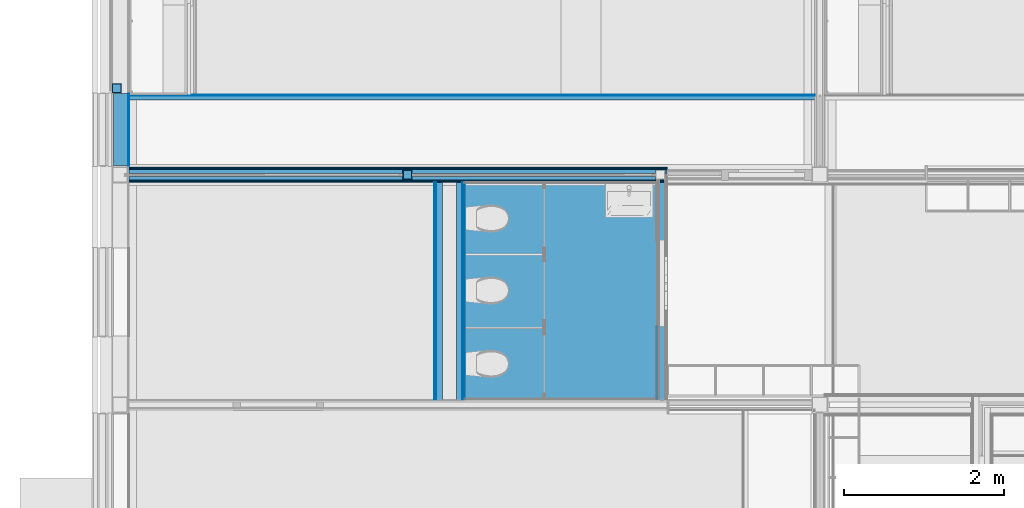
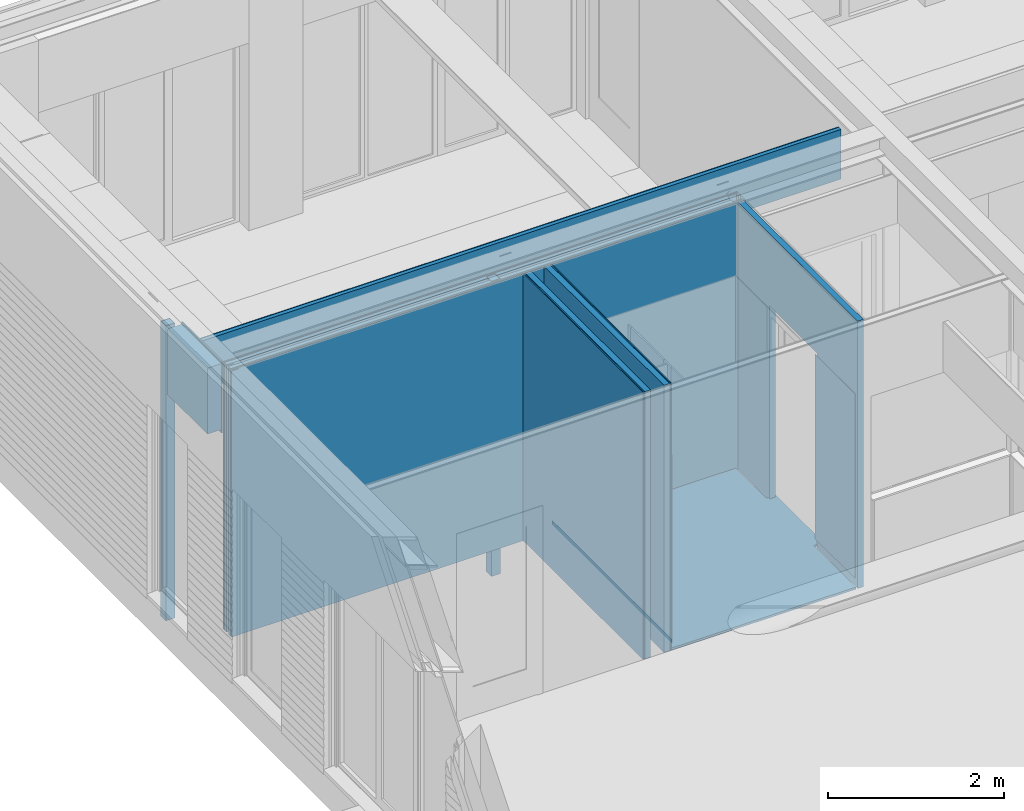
# One storey, part 78 of 165: 25 building element parts, 1 opening, 11 elements without a shape of their own.
"""IFC2X3 building model written with IfcOpenShell, lengths in millimetres."""

import ifcopenshell
import ifcopenshell.guid

model = None  # the IFC model being written
_history = None  # IfcOwnerHistory: only IFC2X3 demands one
_inside = {}  # id of a spatial element -> (the spatial element, [elements in it])
_under = {}  # id of a project, library or spatial element -> (it, [spatial elements below it])
_declared = {}  # id of a project -> (the project, [libraries it declares])
_typed = {}  # id of a type object -> (the type object, [elements of that type])
_made_of = {}  # id of a material, layer set ... -> (it, [elements and type objects made of it])


def new_model(schema):
    """Start an empty IFC model of exactly this schema.

    Asked for "IFC4X3", IfcOpenShell would pick the latest addendum, in which some entities
    have other attributes; the version numbers below select the first issue.
    IFC2X3 requires an IfcOwnerHistory on every rooted entity: one is made here for all.
    """
    global model, _history
    if schema == "IFC4X3":
        model = ifcopenshell.file(schema_version=(4, 3, 0, 0))
    else:
        model = ifcopenshell.file(schema=schema)
    _inside.clear()
    _under.clear()
    _declared.clear()
    _typed.clear()
    _made_of.clear()
    _history = None
    if model.schema == "IFC2X3":
        org = make("IfcOrganization", Name="unknown")
        user = make(
            "IfcPersonAndOrganization",
            ThePerson=make("IfcPerson", FamilyName="unknown"),
            TheOrganization=org,
        )
        app = make(
            "IfcApplication",
            ApplicationDeveloper=org,
            Version="unknown",
            ApplicationFullName="unknown",
            ApplicationIdentifier="unknown",
        )
        _history = make(
            "IfcOwnerHistory",
            OwningUser=user,
            OwningApplication=app,
            ChangeAction="ADDED",
            CreationDate=0,
        )
    return model


def make(cls, **values):
    """One entity of the class cls with the attributes given. An attribute that is None is left unset."""
    return model.create_entity(
        cls, **{name: value for name, value in values.items() if value is not None}
    )


def entity(cls, *values):
    """Any entity or typed value of the class cls, its attributes in the order of the schema. None: left unset."""
    e = model.create_entity(cls)
    for i, value in enumerate(values):
        if value is not None:
            e[i] = value
    return e


def rooted(cls, **values):
    """An entity with a GlobalId (a new one), such as an element, a storey or a relation."""
    return make(cls, GlobalId=ifcopenshell.guid.new(), OwnerHistory=_history, **values)


def si_unit(unit_type, name, prefix=None):
    """IfcSIUnit, for example si_unit("LENGTHUNIT", "METRE", prefix="MILLI")."""
    return make("IfcSIUnit", UnitType=unit_type, Prefix=prefix, Name=name)


def converted_unit(unit_type, name, factor, base, dimensions=None, offset=None):
    """IfcConversionBasedUnit, such as the inch: factor (a typed value) times the base unit."""
    return make(
        "IfcConversionBasedUnit"
        if offset is None
        else "IfcConversionBasedUnitWithOffset",
        ConversionOffset=offset,
        Dimensions=None
        if dimensions is None
        else entity("IfcDimensionalExponents", *dimensions),
        UnitType=unit_type,
        Name=name,
        ConversionFactor=make(
            "IfcMeasureWithUnit", ValueComponent=factor, UnitComponent=base
        ),
    )


def derived_unit(unit_type, elements):
    """IfcDerivedUnit: a product of units, each with its exponent."""
    return make(
        "IfcDerivedUnit",
        Elements=[
            make("IfcDerivedUnitElement", Unit=unit, Exponent=power)
            for unit, power in elements
        ],
        UnitType=unit_type,
    )


def money_unit(currency):
    """IfcMonetaryUnit."""
    return make("IfcMonetaryUnit", Currency=currency)


def assignment(units):
    """IfcUnitAssignment: the units of a project."""
    return None if units is None else make("IfcUnitAssignment", Units=units)


def point(xyz):
    """IfcCartesianPoint."""
    return None if xyz is None else make("IfcCartesianPoint", Coordinates=xyz)


def direction(xyz):
    """IfcDirection."""
    return None if xyz is None else make("IfcDirection", DirectionRatios=xyz)


def frame(location, z_axis=None, x_axis=None):
    """IfcAxis2Placement3D, a coordinate frame: its origin and axes. An axis left out is left unset."""
    return make(
        "IfcAxis2Placement3D",
        Location=point(location),
        Axis=direction(z_axis),
        RefDirection=direction(x_axis),
    )


def origin_with_axes():
    """The frame at (0, 0, 0) with the z axis (0, 0, 1) and the x axis (1, 0, 0) written out."""
    return frame((0.0, 0.0, 0.0), z_axis=(0.0, 0.0, 1.0), x_axis=(1.0, 0.0, 0.0))


def place(relative_to, where):
    """IfcLocalPlacement: puts the frame where relative to a parent placement (None: the world)."""
    return make(
        "IfcLocalPlacement", PlacementRelTo=relative_to, RelativePlacement=where
    )


def context(
    kind, dimensions, precision=None, world=None, true_north=None, identifier=None
):
    """IfcGeometricRepresentationContext, for example the 3D "Model" context."""
    return make(
        "IfcGeometricRepresentationContext",
        ContextIdentifier=identifier,
        ContextType=kind,
        CoordinateSpaceDimension=dimensions,
        Precision=precision,
        WorldCoordinateSystem=world,
        TrueNorth=true_north,
    )


def subcontext(parent, identifier, kind, view, scale=None):
    """IfcGeometricRepresentationSubContext, for example "Body" below "Model"."""
    return make(
        "IfcGeometricRepresentationSubContext",
        ContextIdentifier=identifier,
        ContextType=kind,
        ParentContext=parent,
        TargetScale=scale,
        TargetView=view,
    )


def project(units=None, contexts=None):
    """IfcProject with its units and contexts."""
    return rooted(
        "IfcProject",
        Name="project",
        RepresentationContexts=contexts,
        UnitsInContext=assignment(units),
    )


def spatial(cls, under=None, at=None, **own):
    """A site, building, storey or space (cls), placed at a placement, below another one or the project."""
    s = rooted(cls, ObjectPlacement=at, **own)
    if under is not None:
        _under.setdefault(under.id(), (under, []))[1].append(s)
    return s


def faces_of(points, faces, orient=None, outer=None):
    """IfcFace entities. A face is a list of loops; a loop is a list of indices into points, from 0.

    orient and outer hold one flag for each loop. By default every Orientation is true, the
    first loop of a face is its IfcFaceOuterBound and the others are IfcFaceBound.
    """
    made = []
    for i, loops in enumerate(faces):
        bounds = []
        for j, loop in enumerate(loops):
            is_outer = j == 0 if outer is None else outer[i][j]
            bounds.append(
                make(
                    "IfcFaceOuterBound" if is_outer else "IfcFaceBound",
                    Bound=make("IfcPolyLoop", Polygon=[points[k] for k in loop]),
                    Orientation=True if orient is None else orient[i][j],
                )
            )
        made.append(make("IfcFace", Bounds=bounds))
    return made


def faceted_brep(points, faces, orient=None, outer=None, voids=None):
    """IfcFacetedBrep: a solid bounded by flat faces; with voids (closed shells), ...WithVoids."""
    shared = [point(p) for p in points]
    hull = make("IfcClosedShell", CfsFaces=faces_of(shared, faces, orient, outer))
    if voids is None:
        return make("IfcFacetedBrep", Outer=hull)
    return make(
        "IfcFacetedBrepWithVoids",
        Outer=hull,
        Voids=[
            make(cls, CfsFaces=faces_of(shared, fs, o, b)) for cls, fs, o, b in voids
        ],
    )


def shape(context_of_items, identifier, shape_type, items):
    """IfcShapeRepresentation: the items that make up one representation, for example the "Body"."""
    return make(
        "IfcShapeRepresentation",
        ContextOfItems=context_of_items,
        RepresentationIdentifier=identifier,
        RepresentationType=shape_type,
        Items=items,
    )


def material(Name=None, Category=None):
    """IfcMaterial."""
    return make("IfcMaterial", Name=Name, Category=Category)


def made_of(thing, what):
    """Note that an element or type object is made of a material, layer set ...; save() writes the relation."""
    if what is not None:
        _made_of.setdefault(what.id(), (what, []))[1].append(thing)
    return thing


def type_object(cls, material=None, **own):
    """A type object (cls), such as IfcWallType, which elements share."""
    return made_of(rooted(cls, **own), material)


def element(
    cls,
    number,
    at=None,
    inside=None,
    cuts=None,
    type_object=None,
    material=None,
    context=None,
    identifier="Body",
    shape_type=None,
    held_by="IfcProductDefinitionShape",
    body=None,
    shapes=None,
    **own,
):
    """One element of the class cls, such as IfcWall. Its Tag is "e" and its number.

    at: its placement. inside: the storey or other place that contains it. cuts: it is an
    opening in that element (IfcRelVoidsElement). A single representation is given by context,
    identifier, shape_type and body (its items); several are given by shapes. held_by: the class
    of the entity that holds the representations. save() writes the other relations.
    """
    e = rooted(cls, Tag="e%d" % number, ObjectPlacement=at, **own)
    if body is not None:
        shapes = [shape(context, identifier, shape_type, body)]
    if shapes is not None:
        e.Representation = make(held_by, Representations=shapes)
    if inside is not None:
        _inside.setdefault(inside.id(), (inside, []))[1].append(e)
    if cuts is not None:
        rooted(
            "IfcRelVoidsElement", RelatingBuildingElement=cuts, RelatedOpeningElement=e
        )
    if type_object is not None:
        _typed.setdefault(type_object.id(), (type_object, []))[1].append(e)
    return made_of(e, material)


def aggregate(whole, parts):
    """IfcRelAggregates: a whole, such as a stair, and the parts it consists of."""
    return rooted("IfcRelAggregates", RelatingObject=whole, RelatedObjects=parts)


def save(model, path):
    """Write the relations noted so far, then the file.

    IfcRelAggregates (storeys below a building ...), IfcRelContainedInSpatialStructure (elements
    in a storey), IfcRelDefinesByType, IfcRelAssociatesMaterial and IfcRelDeclares: one each for
    every whole, place, type object, material and project.
    """
    for whole, parts in _under.values():
        aggregate(whole, parts)
    for where, things in _inside.values():
        rooted(
            "IfcRelContainedInSpatialStructure",
            RelatedElements=things,
            RelatingStructure=where,
        )
    for kind, things in _typed.values():
        rooted("IfcRelDefinesByType", RelatedObjects=things, RelatingType=kind)
    for what, things in _made_of.values():
        rooted("IfcRelAssociatesMaterial", RelatedObjects=things, RelatingMaterial=what)
    for by, libraries in _declared.values():
        rooted("IfcRelDeclares", RelatingContext=by, RelatedDefinitions=libraries)
    model.write(path)


model = new_model("IFC2X3")

# Units and contexts
model_context = context("Model", 3, precision=0.01, world=origin_with_axes(), true_north=direction((0.0, 1.0)))
body_context = subcontext(model_context, "Body", "Model", "MODEL_VIEW")
ifc_project = project(units=[si_unit("LENGTHUNIT", "METRE", prefix="MILLI"), si_unit("AREAUNIT", "SQUARE_METRE"), si_unit("VOLUMEUNIT", "CUBIC_METRE"), converted_unit("PLANEANGLEUNIT", "DEGREE", entity("IfcPlaneAngleMeasure", 0.0174532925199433), si_unit("PLANEANGLEUNIT", "RADIAN"), dimensions=[0, 0, 0, 0, 0, 0, 0]), money_unit("EUR"), converted_unit("TIMEUNIT", "Year", entity("IfcTimeMeasure", 31556926.0), si_unit("TIMEUNIT", "SECOND"), dimensions=[0, 0, 1, 0, 0, 0, 0]), si_unit("MASSUNIT", "GRAM", prefix="KILO"), si_unit("THERMODYNAMICTEMPERATUREUNIT", "DEGREE_CELSIUS"), si_unit("LUMINOUSINTENSITYUNIT", "LUMEN"), si_unit("ENERGYUNIT", "JOULE", prefix="MEGA"), derived_unit("THERMALCONDUCTANCEUNIT", [(si_unit("POWERUNIT", "WATT"), 1), (si_unit("LENGTHUNIT", "METRE"), -1), (si_unit("THERMODYNAMICTEMPERATUREUNIT", "KELVIN"), -1)]), derived_unit("SPECIFICHEATCAPACITYUNIT", [(si_unit("ENERGYUNIT", "JOULE"), 1), (si_unit("MASSUNIT", "GRAM", prefix="KILO"), -1), (si_unit("THERMODYNAMICTEMPERATUREUNIT", "KELVIN"), -1)]), derived_unit("MASSDENSITYUNIT", [(si_unit("MASSUNIT", "GRAM", prefix="KILO"), 1), (si_unit("VOLUMEUNIT", "CUBIC_METRE"), -1)])], contexts=[model_context])

# Site, building, storey
site_placement = place(None, origin_with_axes())
site = spatial("IfcSite", under=ifc_project, at=site_placement, Name="Site", CompositionType="ELEMENT")
building_placement = place(site_placement, origin_with_axes())
building = spatial("IfcBuilding", under=site, at=building_placement, Name="Naam gebouw", CompositionType="ELEMENT")
storey_placement = place(building_placement, origin_with_axes())
storey = spatial("IfcBuildingStorey", under=building, at=storey_placement, Name="Begane grond", CompositionType="ELEMENT", Elevation=0.0)

# Proxy, opening, building element part
building_element_proxy_type_1 = type_object("IfcBuildingElementProxyType", Name="22 Metal stud 125 oregon pine 125", PredefinedType="NOTDEFINED")
proxy_1_placement = place(storey_placement, frame((6940.000053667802, 19449.9998112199, -100.0), z_axis=(0.0, 0.0, 1.0), x_axis=(0.0, 1.0, 0.0)))
proxy_1 = element("IfcBuildingElementProxy", 1, at=proxy_1_placement, inside=storey, type_object=building_element_proxy_type_1, Name="_Wand-x")
opening_placement = place(proxy_1_placement, frame((1519.976407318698, 0.0, 100.0), z_axis=(0.0, 0.0, 1.0), x_axis=(1.0, 0.0, 0.0)))
element("IfcOpeningElement", 2, at=opening_placement, cuts=proxy_1, Name="_01.03", context=body_context, shape_type="Brep", body=[
    faceted_brep([(539.9999999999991, 126.0000000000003, 2600.0), (539.9999999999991, 126.0000000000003, -100.0000000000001), (-539.9999999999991, 126.0000000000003, -100.0000000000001), (-539.9999999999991, 126.0000000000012, 2600.0), (539.9999999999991, -1.000000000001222, 2600.0), (539.9999999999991, -1.000000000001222, -100.0000000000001), (-539.9999999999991, -1.000000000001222, -100.0000000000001), (-539.9999999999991, -1.000000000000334, 2600.0)], [[[0, 1, 2, 3]], [[4, 5, 1, 0]], [[5, 6, 2, 1]], [[6, 7, 3, 2]], [[7, 4, 0, 3]], [[6, 5, 4, 7]]]),
])
ifc_material_1 = material(Name="ALG - LICHTE SCHEIDINGSWAND")
building_element_part_1_placement = place(proxy_1_placement, origin_with_axes())
building_element_part_1 = element("IfcBuildingElementPart", 3, at=building_element_part_1_placement, material=ifc_material_1, Name="ALG - LICHTE SCHEIDINGSWAND", context=body_context, shape_type="Brep", body=[
    faceted_brep([(979.9764073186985, 25.00001788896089, 0.0), (979.9764073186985, 25.00005366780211, 2700.0), (2059.976407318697, 25.00005366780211, 2700.0), (2059.976407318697, 25.00003894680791, 0.0), (2814.976402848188, 25.00005366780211, 0.0), (2814.976402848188, 25.00005366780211, 3699.999999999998), (62.5, 25.00000000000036, 3700.0), (62.5, 25.00000000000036, 0.0), (979.9764073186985, 99.99999999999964, 0.0), (979.9764073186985, 100.0000000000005, 2700.0), (2059.976407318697, 100.0000000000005, 2700.0), (2059.976407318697, 99.99999999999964, 0.0), (2814.976402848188, 99.99999999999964, 0.0), (2814.976402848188, 100.0000000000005, 3699.999999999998), (62.5, 100.0000000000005, 3700.0), (62.5, 99.99999999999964, 0.0)], [[[0, 1, 2, 3, 4, 5, 6, 7]], [[1, 0, 8, 9]], [[2, 1, 9, 10]], [[3, 2, 10, 11]], [[3, 11, 12, 4]], [[5, 4, 12, 13]], [[13, 14, 6, 5]], [[15, 7, 6, 14]], [[8, 0, 7, 15]], [[9, 8, 15, 14, 13, 12, 11, 10]]]),
])
aggregate(proxy_1, [building_element_part_1])

# Proxy, building element parts
building_element_proxy_type_2 = type_object("IfcBuildingElementProxyType", Name="22 Metal stud 100 voorzetwand 100", PredefinedType="NOTDEFINED")
proxy_2_placement = place(storey_placement, frame((4030.00002148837, 19449.9998112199, -100.0), z_axis=(0.0, 0.0, 1.0), x_axis=(-9.742318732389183e-09, 1.0, 0.0)))
proxy_2 = element("IfcBuildingElementProxy", 4, at=proxy_2_placement, inside=storey, type_object=building_element_proxy_type_2, Name="_Wand-x")
ifc_material_2 = material(Name="Gipsplaat")
building_element_part_2_placement = place(proxy_2_placement, origin_with_axes())
building_element_part_2 = element("IfcBuildingElementPart", 5, at=building_element_part_2_placement, material=ifc_material_2, Name="Gipsplaat", context=body_context, shape_type="Brep", body=[
    faceted_brep([(2779.987164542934, -2.70835212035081e-05, 3700.0), (62.5, -6.088951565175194e-07, 3700.0), (62.49999987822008, -12.50000060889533, 3700.0), (2779.987197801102, -12.50002708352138, 3700.0), (2779.987164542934, -2.70835212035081e-05, 0.0), (62.5, -6.088951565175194e-07, 0.0), (62.49999987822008, -12.50000060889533, 0.0), (2779.987197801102, -12.50002708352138, 0.0)], [[[0, 1, 2, 3]], [[4, 5, 1, 0]], [[2, 1, 5, 6]], [[3, 2, 6, 7]], [[3, 7, 4, 0]], [[7, 6, 5, 4]]]),
])
building_element_part_3_placement = place(proxy_2_placement, origin_with_axes())
building_element_part_3 = element("IfcBuildingElementPart", 6, at=building_element_part_3_placement, material=ifc_material_2, Name="Gipsplaat", context=body_context, shape_type="Brep", body=[
    faceted_brep([(2779.987197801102, -12.50002708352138, 3700.0), (62.49999987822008, -12.50000060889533, 3700.0), (62.49999975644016, -25.00000060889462, 3700.0), (2779.98723105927, -25.00002708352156, 3700.0), (2779.987197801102, -12.50002708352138, 0.0), (62.49999987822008, -12.50000060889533, 0.0), (62.49999975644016, -25.00000060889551, 0.0), (2779.98723105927, -25.00002708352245, 0.0)], [[[0, 1, 2, 3]], [[4, 5, 1, 0]], [[2, 1, 5, 6]], [[3, 2, 6, 7]], [[3, 7, 4, 0]], [[7, 6, 5, 4]]]),
])
building_element_part_4_placement = place(proxy_2_placement, origin_with_axes())
building_element_part_4 = element("IfcBuildingElementPart", 7, at=building_element_part_4_placement, material=ifc_material_1, Name="ALG - LICHTE SCHEIDINGSWAND", context=body_context, shape_type="Brep", body=[
    faceted_brep([(2779.98723105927, -25.00002708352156, 3700.0), (62.49999975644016, -25.00000060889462, 3700.0), (62.49999902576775, -100.0000006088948, 3700.0), (2779.987430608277, -100.0000270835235, 3700.0), (2779.98723105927, -25.00002708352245, 0.0), (62.49999975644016, -25.00000060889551, 0.0), (62.49999902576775, -100.0000006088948, 0.0), (2779.987430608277, -100.0000270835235, 0.0)], [[[0, 1, 2, 3]], [[4, 5, 1, 0]], [[2, 1, 5, 6]], [[3, 2, 6, 7]], [[3, 7, 4, 0]], [[7, 6, 5, 4]]]),
])
aggregate(proxy_2, [building_element_part_2, building_element_part_3, building_element_part_4])

building_element_proxy_type_3 = type_object("IfcBuildingElementProxyType", Name="22 Metal stud 190 190", PredefinedType="NOTDEFINED")
proxy_3_placement = place(storey_placement, frame((0.0, 22324.97621406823, -100.0), z_axis=(0.0, 0.0, 1.0), x_axis=(0.9999999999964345, 2.670395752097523e-06, 0.0)))
proxy_3 = element("IfcBuildingElementProxy", 8, at=proxy_3_placement, inside=storey, type_object=building_element_proxy_type_3, Name="_Wand-x")
building_element_part_5_placement = place(proxy_3_placement, origin_with_axes())
building_element_part_5 = element("IfcBuildingElementPart", 9, at=building_element_part_5_placement, material=ifc_material_2, Name="Gipsplaat", context=body_context, shape_type="Brep", body=[
    faceted_brep([(214.0002203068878, 82.49942853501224, 0.0), (214.0002203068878, 82.49942853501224, 3679.999999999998), (304.0002247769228, 82.49918819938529, 3679.999999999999), (304.0002247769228, 82.49918819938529, 3694.999999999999), (214.0002203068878, 82.49942853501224, 3694.999999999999), (214.0002203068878, 82.49942853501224, 3700.0), (6940.000220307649, 82.48146745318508, 3700.0), (6940.000220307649, 82.48146745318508, 0.0), (214.0001869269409, 69.99942853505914, 0.0), (214.0001869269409, 69.99942853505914, 3679.999999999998), (304.0001913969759, 69.99918819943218, 3679.999999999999), (304.0001913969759, 69.99918819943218, 3694.999999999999), (214.0001869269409, 69.99942853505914, 3694.999999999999), (214.0001869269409, 69.99942853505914, 3700.0), (6940.000186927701, 69.98146745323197, 3700.0), (6940.000186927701, 69.98146745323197, 0.0)], [[[0, 1, 2, 3, 4, 5, 6, 7]], [[8, 9, 1, 0]], [[10, 2, 1, 9]], [[11, 3, 2, 10]], [[12, 4, 3, 11]], [[5, 4, 12, 13]], [[5, 13, 14, 6]], [[14, 15, 7, 6]], [[8, 0, 7, 15]], [[11, 10, 9, 8, 15, 14, 13, 12]]]),
])
building_element_part_6_placement = place(proxy_3_placement, origin_with_axes())
building_element_part_6 = element("IfcBuildingElementPart", 10, at=building_element_part_6_placement, material=ifc_material_2, Name="Gipsplaat", context=body_context, shape_type="Brep", body=[
    faceted_brep([(214.0002536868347, 94.99942853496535, 0.0), (214.0002536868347, 94.99942853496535, 3679.999999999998), (304.0002581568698, 94.99918819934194, 3679.999999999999), (304.0002581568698, 94.99918819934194, 3694.999999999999), (214.0002536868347, 94.99942853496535, 3694.999999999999), (214.0002536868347, 94.99942853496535, 3700.0), (6940.000253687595, 94.98146745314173, 3700.0), (6940.000253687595, 94.98146745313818, 0.0), (214.0002203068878, 82.49942853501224, 0.0), (214.0002203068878, 82.49942853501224, 3679.999999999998), (304.0002247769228, 82.49918819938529, 3679.999999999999), (304.0002247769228, 82.49918819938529, 3694.999999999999), (214.0002203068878, 82.49942853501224, 3694.999999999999), (214.0002203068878, 82.49942853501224, 3700.0), (6940.000220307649, 82.48146745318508, 3700.0), (6940.000220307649, 82.48146745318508, 0.0)], [[[0, 1, 2, 3, 4, 5, 6, 7]], [[8, 9, 1, 0]], [[10, 2, 1, 9]], [[11, 3, 2, 10]], [[12, 4, 3, 11]], [[5, 4, 12, 13]], [[5, 13, 14, 6]], [[14, 15, 7, 6]], [[8, 0, 7, 15]], [[11, 10, 9, 8, 15, 14, 13, 12]]]),
])
building_element_part_7_placement = place(proxy_3_placement, origin_with_axes())
building_element_part_7 = element("IfcBuildingElementPart", 11, at=building_element_part_7_placement, material=ifc_material_1, Name="ALG - LICHTE SCHEIDINGSWAND", context=body_context, shape_type="Brep", body=[
    faceted_brep([(6914.999946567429, -20.01846578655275, 0.0), (6914.999946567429, -20.01846578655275, 3699.999999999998), (6939.999946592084, -20.01853254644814, 3700.0), (6939.999946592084, -20.01853254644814, 0.0), (6914.999839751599, -60.01846578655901, 3699.999999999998), (6914.999839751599, -60.01846578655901, 0.0), (6794.999839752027, -60.01814533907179, 3699.999999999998), (6794.999946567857, -20.01814533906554, 3699.999999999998), (3753.9999465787, -20.01002466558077, 3699.999999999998), (3753.99983976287, -60.01002466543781, 3699.999999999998), (3633.999839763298, -60.00970421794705, 3699.999999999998), (3633.999946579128, -20.00970421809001, 3699.999999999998), (213.9999465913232, -20.00057146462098, 3700.0), (213.9998130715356, -70.00057146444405, 3700.0), (6939.999813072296, -70.01853254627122, 3700.0), (6939.999813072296, -70.01853254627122, 0.0), (213.9998130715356, -70.00057146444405, 0.0), (213.9999465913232, -20.00057146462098, 0.0), (3633.999946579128, -20.00970421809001, 0.0), (3633.999839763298, -60.00970421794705, 0.0), (3753.99983976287, -60.01002466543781, 0.0), (3753.9999465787, -20.01002466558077, 0.0), (6794.999946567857, -20.01814533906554, 0.0), (6794.999839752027, -60.01814533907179, 0.0), (213.9999465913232, -20.00057146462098, 3679.999999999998), (303.9999510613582, -20.00081180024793, 3679.999999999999), (303.9999510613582, -20.00081180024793, 3694.999999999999), (213.9999465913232, -20.00057146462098, 3694.999999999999), (213.9998130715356, -70.00057146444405, 3694.999999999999), (303.9998175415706, -70.000811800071, 3694.999999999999), (303.9998175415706, -70.000811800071, 3679.999999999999), (213.9998130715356, -70.00057146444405, 3679.999999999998)], [[[0, 1, 2, 3]], [[4, 1, 0, 5]], [[6, 7, 8, 9, 10, 11, 12, 13, 14, 2, 1, 4]], [[14, 15, 3, 2]], [[5, 0, 3, 15, 16, 17, 18, 19, 20, 21, 22, 23]], [[6, 4, 5, 23]], [[22, 7, 6, 23]], [[7, 22, 21, 8]], [[9, 8, 21, 20]], [[10, 9, 20, 19]], [[18, 11, 10, 19]], [[11, 18, 17, 24, 25, 26, 27, 12]], [[12, 27, 28, 13]], [[29, 30, 31, 16, 15, 14, 13, 28]], [[16, 31, 24, 17]], [[30, 25, 24, 31]], [[29, 26, 25, 30]], [[28, 27, 26, 29]]]),
])
building_element_part_8_placement = place(proxy_3_placement, origin_with_axes())
building_element_part_8 = element("IfcBuildingElementPart", 12, at=building_element_part_8_placement, material=ifc_material_2, Name="Gipsplaat", context=body_context, shape_type="Brep", body=[
    faceted_brep([(213.9997796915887, -82.50057146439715, 0.0), (213.9997796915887, -82.50057146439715, 3679.999999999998), (303.9997841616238, -82.50081180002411, 3679.999999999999), (303.9997841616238, -82.50081180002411, 3694.999999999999), (213.9997796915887, -82.50057146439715, 3694.999999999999), (213.9997796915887, -82.50057146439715, 3700.0), (6939.999779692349, -82.51853254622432, 3700.0), (6939.999779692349, -82.51853254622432, 0.0), (213.9997463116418, -95.00057146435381, 0.0), (213.9997463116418, -95.00057146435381, 3679.999999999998), (303.9997507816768, -95.00081179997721, 3679.999999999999), (303.9997507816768, -95.00081179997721, 3694.999999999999), (213.9997463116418, -95.00057146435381, 3694.999999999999), (213.9997463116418, -95.00057146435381, 3700.0), (6939.999746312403, -95.01853254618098, 3700.0), (6939.999746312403, -95.01853254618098, 0.0)], [[[0, 1, 2, 3, 4, 5, 6, 7]], [[8, 9, 1, 0]], [[10, 2, 1, 9]], [[11, 3, 2, 10]], [[12, 4, 3, 11]], [[5, 4, 12, 13]], [[5, 13, 14, 6]], [[14, 15, 7, 6]], [[8, 0, 7, 15]], [[11, 10, 9, 8, 15, 14, 13, 12]]]),
])
building_element_part_9_placement = place(proxy_3_placement, origin_with_axes())
building_element_part_9 = element("IfcBuildingElementPart", 13, at=building_element_part_9_placement, material=ifc_material_2, Name="Gipsplaat", context=body_context, shape_type="Brep", body=[
    faceted_brep([(213.9998130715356, -70.00057146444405, 0.0), (213.9998130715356, -70.00057146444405, 3679.999999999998), (303.9998175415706, -70.000811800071, 3679.999999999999), (303.9998175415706, -70.000811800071, 3694.999999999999), (213.9998130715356, -70.00057146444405, 3694.999999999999), (213.9998130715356, -70.00057146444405, 3700.0), (6939.999813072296, -70.01853254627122, 3700.0), (6939.999813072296, -70.01853254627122, 0.0), (213.9997796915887, -82.50057146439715, 0.0), (213.9997796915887, -82.50057146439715, 3679.999999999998), (303.9997841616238, -82.50081180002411, 3679.999999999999), (303.9997841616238, -82.50081180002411, 3694.999999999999), (213.9997796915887, -82.50057146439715, 3694.999999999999), (213.9997796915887, -82.50057146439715, 3700.0), (6939.999779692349, -82.51853254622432, 3700.0), (6939.999779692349, -82.51853254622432, 0.0)], [[[0, 1, 2, 3, 4, 5, 6, 7]], [[8, 9, 1, 0]], [[10, 2, 1, 9]], [[11, 3, 2, 10]], [[12, 4, 3, 11]], [[5, 4, 12, 13]], [[5, 13, 14, 6]], [[14, 15, 7, 6]], [[8, 0, 7, 15]], [[11, 10, 9, 8, 15, 14, 13, 12]]]),
])
building_element_part_10_placement = place(proxy_3_placement, origin_with_axes())
building_element_part_10 = element("IfcBuildingElementPart", 14, at=building_element_part_10_placement, material=ifc_material_1, Name="ALG - LICHTE SCHEIDINGSWAND", context=body_context, shape_type="Brep", body=[
    faceted_brep([(6795.000053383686, 19.9818546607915, 3699.999999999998), (6795.000160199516, 59.98185466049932, 3699.999999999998), (6915.000160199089, 59.98153421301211, 3699.999999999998), (6915.000053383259, 19.98153421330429, 3699.999999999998), (6940.000053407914, 19.9814674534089, 3700.0), (6940.0001869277, 69.98146745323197, 3700.0), (214.0001869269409, 69.99942853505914, 3700.0), (214.0000534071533, 19.99942853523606, 3700.0), (3634.000053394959, 19.99029578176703, 3699.999999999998), (3634.000160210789, 59.99029578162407, 3699.999999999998), (3754.000160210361, 59.98997533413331, 3699.999999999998), (3754.00005339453, 19.98997533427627, 3699.999999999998), (6795.000053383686, 19.9818546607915, 0.0), (6795.000160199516, 59.98185466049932, 0.0), (6915.000160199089, 59.98153421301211, 0.0), (6915.000053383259, 19.98153421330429, 0.0), (6940.000053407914, 19.9814674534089, 0.0), (6940.0001869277, 69.98146745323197, 0.0), (214.0001869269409, 69.99942853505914, 0.0), (214.0001869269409, 69.99942853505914, 3679.999999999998), (304.0001913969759, 69.99918819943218, 3679.999999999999), (304.0001913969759, 69.99918819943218, 3694.999999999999), (214.0001869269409, 69.99942853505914, 3694.999999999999), (214.0000534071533, 19.99942853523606, 3694.999999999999), (3634.000053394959, 19.99029578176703, 0.0), (304.0000578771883, 19.99918819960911, 3694.999999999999), (304.0000578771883, 19.99918819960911, 3679.999999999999), (214.0000534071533, 19.99942853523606, 3679.999999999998), (214.0000534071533, 19.99942853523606, 0.0), (3634.000160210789, 59.99029578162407, 0.0), (3754.000160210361, 59.98997533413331, 0.0), (3754.00005339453, 19.98997533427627, 0.0)], [[[0, 1, 2, 3, 4, 5, 6, 7, 8, 9, 10, 11]], [[1, 0, 12, 13]], [[2, 1, 13, 14]], [[3, 2, 14, 15]], [[3, 15, 16, 4]], [[4, 16, 17, 5]], [[18, 19, 20, 21, 22, 6, 5, 17]], [[6, 22, 23, 7]], [[24, 8, 7, 23, 25, 26, 27, 28]], [[9, 8, 24, 29]], [[10, 9, 29, 30]], [[11, 10, 30, 31]], [[12, 0, 11, 31]], [[13, 12, 31, 30, 29, 24, 28, 18, 17, 16, 15, 14]], [[28, 27, 19, 18]], [[26, 20, 19, 27]], [[25, 21, 20, 26]], [[23, 22, 21, 25]]]),
])
aggregate(proxy_3, [building_element_part_5, building_element_part_6, building_element_part_7, building_element_part_8, building_element_part_9, building_element_part_10])

proxy_4_placement = place(storey_placement, frame((4405.000000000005, 22324.98797716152, -100.0), z_axis=(0.0, 0.0, 1.0), x_axis=(0.0, -1.0, 0.0)))
proxy_4 = element("IfcBuildingElementProxy", 15, at=proxy_4_placement, inside=storey, type_object=building_element_proxy_type_2, Name="_Wand-x")
building_element_part_11_placement = place(proxy_4_placement, origin_with_axes())
building_element_part_11 = element("IfcBuildingElementPart", 16, at=building_element_part_11_placement, material=ifc_material_2, Name="Gipsplaat", context=body_context, shape_type="Brep", body=[
    faceted_brep([(2812.488165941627, 0.0, 3700.0), (95.00000000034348, 0.0, 3700.0), (95.00003338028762, -12.50000000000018, 3700.0), (2812.488165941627, -12.50000000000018, 3700.0), (2812.488165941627, 0.0, 0.0), (95.00000000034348, 0.0, 0.0), (95.00003338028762, -12.50000000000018, 0.0), (2812.488165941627, -12.50000000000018, 0.0)], [[[0, 1, 2, 3]], [[4, 5, 1, 0]], [[2, 1, 5, 6]], [[3, 2, 6, 7]], [[3, 7, 4, 0]], [[7, 6, 5, 4]]]),
])
building_element_part_12_placement = place(proxy_4_placement, origin_with_axes())
building_element_part_12 = element("IfcBuildingElementPart", 17, at=building_element_part_12_placement, material=ifc_material_2, Name="Gipsplaat", context=body_context, shape_type="Brep", body=[
    faceted_brep([(2812.488165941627, -12.50000000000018, 3700.0), (95.00003338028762, -12.50000000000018, 3700.0), (95.00006676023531, -24.99999999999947, 3700.0), (2812.488165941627, -25.00000000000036, 3700.0), (2812.488165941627, -12.50000000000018, 0.0), (95.00003338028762, -12.50000000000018, 0.0), (95.00006676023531, -25.00000000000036, 0.0), (2812.488165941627, -25.00000000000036, 0.0)], [[[0, 1, 2, 3]], [[4, 5, 1, 0]], [[2, 1, 5, 6]], [[3, 2, 6, 7]], [[3, 7, 4, 0]], [[7, 6, 5, 4]]]),
])
building_element_part_13_placement = place(proxy_4_placement, origin_with_axes())
building_element_part_13 = element("IfcBuildingElementPart", 18, at=building_element_part_13_placement, material=ifc_material_1, Name="ALG - LICHTE SCHEIDINGSWAND", context=body_context, shape_type="Brep", body=[
    faceted_brep([(2812.488165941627, -25.00000000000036, 3700.0), (95.00006676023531, -24.99999999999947, 3700.0), (95.00026703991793, -99.99999999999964, 3700.0), (2812.488165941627, -100.0000000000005, 3700.0), (2812.488165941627, -25.00000000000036, 0.0), (95.00006676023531, -25.00000000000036, 0.0), (95.00026703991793, -99.99999999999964, 0.0), (2812.488165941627, -100.0000000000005, 0.0)], [[[0, 1, 2, 3]], [[4, 5, 1, 0]], [[2, 1, 5, 6]], [[3, 2, 6, 7]], [[3, 7, 4, 0]], [[7, 6, 5, 4]]]),
])
aggregate(proxy_4, [building_element_part_11, building_element_part_12, building_element_part_13])

building_element_proxy_type_4 = type_object("IfcBuildingElementProxyType", Name="22 Metal stud 62.5 plafond 63", PredefinedType="NOTDEFINED")
proxy_5_placement = place(storey_placement, frame((214.0000000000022, 23324.99984707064, 2600.0), z_axis=(0.0, 0.0, 1.0), x_axis=(1.0, 0.0, 0.0)))
proxy_5 = element("IfcBuildingElementProxy", 19, at=proxy_5_placement, inside=storey, type_object=building_element_proxy_type_4, Name="_Wand-x")
building_element_part_14_placement = place(proxy_5_placement, origin_with_axes())
building_element_part_14 = element("IfcBuildingElementPart", 20, at=building_element_part_14_placement, material=ifc_material_2, Name="Gipsplaat", context=body_context, shape_type="Brep", body=[
    faceted_brep([(8573.500000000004, -12.49999999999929, 12.00000000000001), (8573.500000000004, 0.0, 12.00000000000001), (8573.500000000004, 0.0, 699.9999999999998), (8573.500000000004, -12.49999999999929, 699.9999999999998), (0.0, 0.0, 12.00000000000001), (0.0, -12.49999999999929, 12.00000000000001), (0.0, 0.0, 699.9999999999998), (0.0, -12.49999999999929, 699.9999999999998)], [[[0, 1, 2, 3]], [[4, 1, 0, 5]], [[1, 4, 6, 2]], [[7, 3, 2, 6]], [[5, 0, 3, 7]], [[4, 5, 7, 6]]]),
])
building_element_part_15_placement = place(proxy_5_placement, origin_with_axes())
building_element_part_15 = element("IfcBuildingElementPart", 21, at=building_element_part_15_placement, material=ifc_material_1, Name="ALG - LICHTE SCHEIDINGSWAND", context=body_context, shape_type="Brep", body=[
    faceted_brep([(8573.500000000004, -62.5, 12.00000000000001), (8573.500000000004, -12.49999999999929, 12.00000000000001), (8573.500000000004, -12.49999999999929, 699.9999999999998), (8573.500000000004, -62.5, 699.9999999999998), (0.0, -12.49999999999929, 12.00000000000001), (0.0, -62.5, 12.00000000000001), (0.0, -12.49999999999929, 699.9999999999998), (0.0, -62.5, 699.9999999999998)], [[[0, 1, 2, 3]], [[4, 1, 0, 5]], [[1, 4, 6, 2]], [[7, 3, 2, 6]], [[5, 0, 3, 7]], [[4, 5, 7, 6]]]),
])
aggregate(proxy_5, [building_element_part_14, building_element_part_15])

# Column, building element parts
column_type = type_object("IfcColumnType", Name="120X120X8 120 x 120", PredefinedType="COLUMN")
column_1_placement = place(storey_placement, frame((60.00000000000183, 23409.99984707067, -480.0), z_axis=(0.0, 0.0, 1.0), x_axis=(1.0, 0.0, 0.0)))
column_1 = element("IfcColumn", 22, at=column_1_placement, inside=storey, type_object=column_type, Name="28_Kolom-x", ObjectType="COLUMN")
ifc_material_3 = material(Name="Metaal - Staal C")
building_element_part_16_placement = place(column_1_placement, origin_with_axes())
building_element_part_16 = element("IfcBuildingElementPart", 23, at=building_element_part_16_placement, material=ifc_material_3, Name="Metaal - Staal C", context=body_context, shape_type="Brep", body=[
    faceted_brep([(-60.0, 59.99999999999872, 0.0), (-60.0, -59.99999999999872, 0.0), (-60.0, -59.99999999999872, 4079.999999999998), (-60.0, 59.99999999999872, 4079.999999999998), (60.0, 59.99999999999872, 0.0), (60.0, -59.99999999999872, 0.0), (-52.0, -51.9999999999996, 0.0), (52.00000000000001, -51.9999999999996, 0.0), (52.00000000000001, 51.9999999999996, 0.0), (-52.0, 51.9999999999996, 0.0), (60.0, -59.99999999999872, 4079.999999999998), (60.0, 59.99999999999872, 4079.999999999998), (-52.0, -51.9999999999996, 4079.999999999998), (-52.0, 51.9999999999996, 4079.999999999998), (52.00000000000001, 51.9999999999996, 4079.999999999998), (52.00000000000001, -51.9999999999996, 4079.999999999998)], [[[0, 1, 2, 3]], [[0, 4, 5, 1], [6, 7, 8, 9]], [[1, 5, 10, 2]], [[3, 2, 10, 11], [12, 13, 14, 15]], [[4, 0, 3, 11]], [[5, 4, 11, 10]], [[7, 6, 12, 15]], [[8, 7, 15, 14]], [[9, 8, 14, 13]], [[6, 9, 13, 12]]]),
])
ifc_material_4 = material(Name="Lucht kolommen")
building_element_part_17_placement = place(column_1_placement, origin_with_axes())
building_element_part_17 = element("IfcBuildingElementPart", 24, at=building_element_part_17_placement, material=ifc_material_4, Name="Lucht kolommen", context=body_context, shape_type="Brep", body=[
    faceted_brep([(51.99999999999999, -51.9999999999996, 0.0), (51.99999999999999, 51.9999999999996, 0.0), (51.99999999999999, 51.9999999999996, 4079.999999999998), (51.99999999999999, -51.9999999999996, 4079.999999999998), (-52.0, -51.9999999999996, 0.0), (-52.0, 51.9999999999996, 0.0), (-52.0, 51.9999999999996, 4079.999999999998), (-52.0, -51.9999999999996, 4079.999999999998)], [[[0, 1, 2, 3]], [[0, 4, 5, 1]], [[1, 5, 6, 2]], [[3, 2, 6, 7]], [[4, 0, 3, 7]], [[5, 4, 7, 6]]]),
])
aggregate(column_1, [building_element_part_16, building_element_part_17])

column_2_placement = place(storey_placement, frame((3694.000000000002, 22324.97621406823, -480.0), z_axis=(0.0, 0.0, 1.0), x_axis=(1.0, 0.0, 0.0)))
column_2 = element("IfcColumn", 25, at=column_2_placement, inside=storey, type_object=column_type, Name="28_Kolom-x", ObjectType="COLUMN")
building_element_part_18_placement = place(column_2_placement, origin_with_axes())
building_element_part_18 = element("IfcBuildingElementPart", 26, at=building_element_part_18_placement, material=ifc_material_3, Name="Metaal - Staal C", context=body_context, shape_type="Brep", body=[
    faceted_brep([(-60.00000000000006, 59.99999999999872, 0.0), (-60.00000000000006, -59.99999999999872, 0.0), (-60.00000000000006, -59.99999999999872, 4079.999999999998), (-60.00000000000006, 59.99999999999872, 4079.999999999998), (60.00000000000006, 59.99999999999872, 0.0), (60.00000000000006, -59.99999999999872, 0.0), (-52.00000000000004, -51.9999999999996, 0.0), (52.00000000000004, -51.9999999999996, 0.0), (52.00000000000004, 51.9999999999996, 0.0), (-52.00000000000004, 51.9999999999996, 0.0), (60.00000000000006, -59.99999999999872, 4079.999999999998), (60.00000000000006, 59.99999999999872, 4079.999999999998), (-52.00000000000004, -51.9999999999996, 4079.999999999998), (-52.00000000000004, 51.9999999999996, 4079.999999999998), (52.00000000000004, 51.9999999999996, 4079.999999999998), (52.00000000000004, -51.9999999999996, 4079.999999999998)], [[[0, 1, 2, 3]], [[0, 4, 5, 1], [6, 7, 8, 9]], [[1, 5, 10, 2]], [[3, 2, 10, 11], [12, 13, 14, 15]], [[4, 0, 3, 11]], [[5, 4, 11, 10]], [[7, 6, 12, 15]], [[8, 7, 15, 14]], [[9, 8, 14, 13]], [[6, 9, 13, 12]]]),
])
building_element_part_19_placement = place(column_2_placement, origin_with_axes())
building_element_part_19 = element("IfcBuildingElementPart", 27, at=building_element_part_19_placement, material=ifc_material_4, Name="Lucht kolommen", context=body_context, shape_type="Brep", body=[
    faceted_brep([(52.00000000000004, -51.9999999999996, 0.0), (52.00000000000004, 51.9999999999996, 0.0), (52.00000000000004, 51.9999999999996, 4079.999999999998), (52.00000000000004, -51.9999999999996, 4079.999999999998), (-52.00000000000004, -51.9999999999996, 0.0), (-52.00000000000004, 51.9999999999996, 0.0), (-52.00000000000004, 51.9999999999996, 4079.999999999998), (-52.00000000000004, -51.9999999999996, 4079.999999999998)], [[[0, 1, 2, 3]], [[0, 4, 5, 1]], [[1, 5, 6, 2]], [[3, 2, 6, 7]], [[4, 0, 3, 7]], [[5, 4, 7, 6]]]),
])
aggregate(column_2, [building_element_part_18, building_element_part_19])

# Slab, building element part
slab_type = type_object("IfcSlabType", Name="43 Zwevende dekvloer 100", PredefinedType="NOTDEFINED")
slab_placement = place(storey_placement, frame((6815.000066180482, 22229.99480158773, 0.0), z_axis=(0.0, 0.0, 1.0), x_axis=(1.0, 0.0, 0.0)))
slab = element("IfcSlab", 28, at=slab_placement, inside=storey, type_object=slab_type, Name="_Vloer-x", PredefinedType="NOTDEFINED")
ifc_material_5 = material(Name="Isolatie - XPS zwevende dekvloer")
building_element_part_20_placement = place(slab_placement, origin_with_axes())
building_element_part_20 = element("IfcBuildingElementPart", 29, at=building_element_part_20_placement, material=ifc_material_5, Name="Isolatie - XPS zwevende dekvloer", context=body_context, shape_type="Brep", body=[
    faceted_brep([(0.0, 0.0, -100.0), (-2410.000066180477, -0.00782582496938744, -100.0), (-2410.000066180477, -0.00782582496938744, -70.0), (0.0, 0.0, -70.0), (0.0, -687.5185875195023, -100.0), (124.9999874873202, -687.5185875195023, -100.0), (124.9999874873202, -1767.5185875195, -100.0), (-1.251267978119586e-05, -1767.5185875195, -100.0), (-1.251267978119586e-05, -2717.494990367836, -100.0), (-2410.000066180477, -2717.494990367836, -100.0), (-2410.000066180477, -2717.494990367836, -70.0), (-1.251267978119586e-05, -2717.494990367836, -70.0), (-1.251267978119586e-05, -1767.5185875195, -70.0), (124.9999874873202, -1767.5185875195, -70.0), (124.9999874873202, -687.5185875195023, -70.0), (0.0, -687.5185875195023, -70.0)], [[[0, 1, 2, 3]], [[0, 4, 5, 6, 7, 8, 9, 1]], [[1, 9, 10, 2]], [[3, 2, 10, 11, 12, 13, 14, 15]], [[4, 0, 3, 15]], [[5, 4, 15, 14]], [[6, 5, 14, 13]], [[7, 6, 13, 12]], [[8, 7, 12, 11]], [[9, 8, 11, 10]]]),
])
aggregate(slab, [building_element_part_20])

# Proxy, building element parts
building_element_proxy_type_5 = type_object("IfcBuildingElementProxyType", Name="42 Tegelwerk 2600+ 12 x 2600", PredefinedType="NOTDEFINED")
proxy_6_placement = place(storey_placement, frame((4425.000000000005, 22209.98803046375, 0.0), z_axis=(0.0, 0.0, 1.0), x_axis=(0.0, -1.0, 0.0)))
proxy_6 = element("IfcBuildingElementProxy", 30, at=proxy_6_placement, inside=storey, type_object=building_element_proxy_type_5, Name="_Wand-x")
ifc_material_6 = material(Name="48 vloeivloer Bolidt")
building_element_part_21_placement = place(proxy_6_placement, origin_with_axes())
building_element_part_21 = element("IfcBuildingElementPart", 31, at=building_element_part_21_placement, material=ifc_material_6, Name="48 vloeivloer Bolidt", context=body_context, shape_type="Brep", body=[
    faceted_brep([(-14.99995853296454, -14.99999850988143, 0.0), (-14.99995853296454, -14.99999850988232, 50.00000596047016), (2697.488226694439, -14.99999850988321, 50.00000596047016), (2697.488226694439, -14.99999850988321, 0.0), (-14.9999452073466, -19.99998360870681, 50.00000596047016), (-14.9999452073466, -19.99998360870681, 0.0), (2697.488226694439, -19.99998360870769, 50.00000596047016), (2697.488226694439, -19.99998360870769, 0.0)], [[[0, 1, 2, 3]], [[4, 1, 0, 5]], [[1, 4, 6, 2]], [[7, 3, 2, 6]], [[5, 0, 3, 7]], [[4, 5, 7, 6]]]),
])
ifc_material_7 = material(Name="21 STO lijmlaag")
building_element_part_22_placement = place(proxy_6_placement, origin_with_axes())
building_element_part_22 = element("IfcBuildingElementPart", 32, at=building_element_part_22_placement, material=ifc_material_7, Name="21 STO lijmlaag", context=body_context, shape_type="Brep", body=[
    faceted_brep([(-12.99996982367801, -13.00000447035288, 50.00000000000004), (-12.99996982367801, -13.00000447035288, 2600.0), (2697.488226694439, -13.00000447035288, 2600.0), (2697.488226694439, -13.00000447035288, 50.00000596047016), (-12.99995116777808, -19.99999552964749, 2600.0), (-12.999964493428, -14.99999850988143, 50.00000000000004), (-12.99995116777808, -19.99999552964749, 50.00000000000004), (2697.488226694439, -19.99999552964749, 2600.0), (2697.488226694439, -14.99999850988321, 50.00000596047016), (2697.488226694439, -19.99999552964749, 50.00000596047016)], [[[0, 1, 2, 3]], [[4, 1, 0, 5, 6]], [[1, 4, 7, 2]], [[8, 3, 2, 7, 9]], [[5, 0, 3, 8]], [[6, 5, 8, 9]], [[4, 6, 9, 7]]]),
])
aggregate(proxy_6, [building_element_part_21, building_element_part_22])

# Proxy, building element part
proxy_7_placement = place(storey_placement, frame((6795.000053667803, 19532.4998112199, 0.0), z_axis=(0.0, 0.0, 1.0), x_axis=(0.0, 1.0, 0.0)))
proxy_7 = element("IfcBuildingElementProxy", 33, at=proxy_7_placement, inside=storey, type_object=building_element_proxy_type_5, Name="_Wand-x")
building_element_part_23_placement = place(proxy_7_placement, origin_with_axes())
building_element_part_23 = element("IfcBuildingElementPart", 34, at=building_element_part_23_placement, material=ifc_material_7, Name="21 STO lijmlaag", context=body_context, shape_type="Brep", body=[
    faceted_brep([(-13.00000447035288, -13.00000447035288, 2600.0), (-13.00000447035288, -19.99999552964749, 2600.0), (897.4764073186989, -19.99999552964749, 2600.0), (897.4764073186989, -13.00000447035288, 2600.0), (-13.00000447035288, -19.99999552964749, 50.00000000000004), (-13.00000447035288, -13.00000447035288, 50.00000000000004), (-13.00000447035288, -14.99999850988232, 50.00000000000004), (897.4764073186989, -19.99999552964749, 50.00000000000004), (897.4764073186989, -14.99999850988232, 50.00000596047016), (897.4764073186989, -13.00000447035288, 50.00000000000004)], [[[0, 1, 2, 3]], [[4, 1, 0, 5, 6]], [[1, 4, 7, 2]], [[7, 8, 9, 3, 2]], [[5, 0, 3, 9]], [[6, 5, 9, 8]], [[4, 6, 8, 7]]]),
])
aggregate(proxy_7, [building_element_part_23])

# Beam, building element parts
beam_type = type_object("IfcBeamType", Name="31 HSB boven kozijnen 214 x 1000", PredefinedType="BEAM")
beam_placement = place(storey_placement, frame((214.0000000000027, 22439.99984707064, 2600.000000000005), z_axis=(0.0, 0.0, 1.0), x_axis=(1.0, 0.0, 0.0)))
beam = element("IfcBeam", 35, at=beam_placement, inside=storey, type_object=beam_type, Name="28_Balk-x", ObjectType="BEAM")
building_element_part_24_placement = place(beam_placement, origin_with_axes())
building_element_part_24 = element("IfcBuildingElementPart", 36, at=building_element_part_24_placement, material=ifc_material_2, Name="Gipsplaat", context=body_context, shape_type="Brep", body=[
    faceted_brep([(-11.99999661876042, 899.9999999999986, 0.0), (9.34170968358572e-06, 899.9999999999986, 0.0), (9.34170968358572e-06, 0.0, 0.0), (-11.99999661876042, 0.0, 0.0), (-11.99999661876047, 899.9999999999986, 999.9999999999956), (9.341709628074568e-06, 899.9999999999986, 999.9999999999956), (9.341709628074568e-06, 0.0, 999.9999999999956), (-11.99999661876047, 0.0, 999.9999999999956)], [[[0, 1, 2, 3]], [[0, 4, 5, 1]], [[1, 5, 6, 2]], [[3, 2, 6, 7]], [[4, 0, 3, 7]], [[5, 4, 7, 6]]]),
])
ifc_material_8 = material(Name="ALG - ISOLATIE")
building_element_part_25_placement = place(beam_placement, origin_with_axes())
building_element_part_25 = element("IfcBuildingElementPart", 37, at=building_element_part_25_placement, material=ifc_material_8, Name="ALG - ISOLATIE", context=body_context, shape_type="Brep", body=[
    faceted_brep([(-11.99999999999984, 899.9999999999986, 49.99999999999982), (-11.9999999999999, 899.9999999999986, 961.9999999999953), (-11.9999999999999, 0.0, 961.9999999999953), (-11.99999999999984, 0.0, 49.99999999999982), (-195.9999999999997, 899.9999999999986, 49.99999999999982), (-195.9999999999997, 899.9999999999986, 961.9999999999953), (-195.9999999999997, 0.0, 961.9999999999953), (-195.9999999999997, 0.0, 49.99999999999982)], [[[0, 1, 2, 3]], [[0, 4, 5, 1]], [[1, 5, 6, 2]], [[3, 2, 6, 7]], [[4, 0, 3, 7]], [[5, 4, 7, 6]]]),
])
aggregate(beam, [building_element_part_24, building_element_part_25])

save(model, "model.ifc")
